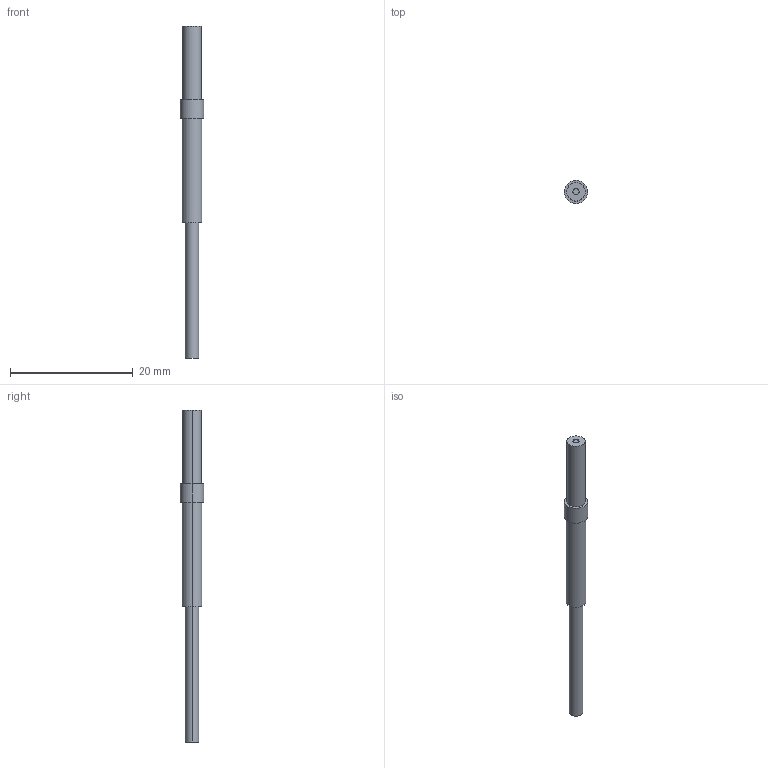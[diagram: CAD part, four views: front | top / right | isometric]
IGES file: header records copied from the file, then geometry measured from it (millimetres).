
Start section: SolidWorks IGES FILE using analytic representation for surfaces
Global section: file name: \\intra-srv04\開発データ\CAD_Data\CAD委員会\3D電子ｶﾀﾛｸﾞ\製品カタログ（新）\0_IGES\FT-WS3.IGS,41HSolidWorks 2004; native system: by SolidWorks Corporation; preprocessor: Version 5.3; author: mf1158; date: 050908.113043; units: millimetre
Bounding box: 3.8 x 3.8 x 54 mm (x, y, z)
Volume: 339.1 mm3; surface area: 494.9 mm2
Topology: 1 solids, 1 shells, 16 faces, 30 edges, 20 vertices
Faces by surface type: revolution 10, plane 6
